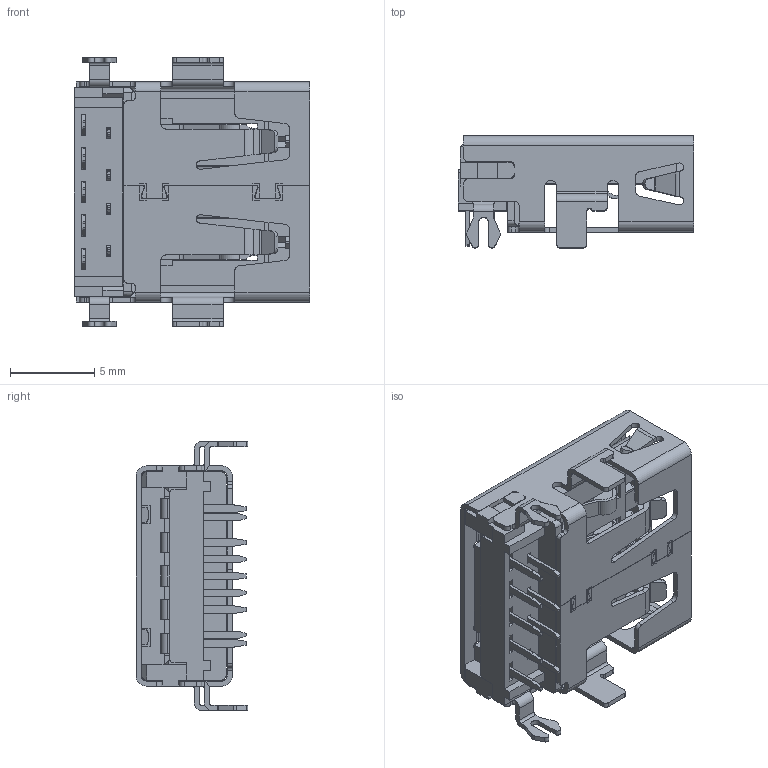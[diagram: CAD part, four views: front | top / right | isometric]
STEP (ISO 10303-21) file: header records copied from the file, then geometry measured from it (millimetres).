
FILE_DESCRIPTION((''),'2;1');
FILE_NAME('C090103_3D','2026-07-27T',('PMT2 SFT'),(''),'PRO/ENGINEER BY PARAMETRIC TECHNOLOGY CORPORATION, 2011490','PRO/ENGINEER BY PARAMETRIC TECHNOLOGY CORPORATION, 2011490','');
FILE_SCHEMA(('CONFIG_CONTROL_DESIGN'));
Length unit declared in the file: millimetre
Products named in the file (1): C090103_3D
Bounding box: 14 x 6.66 x 16 mm (x, y, z)
Volume: 390.1 mm3; surface area: 1801.3 mm2
Topology: 1 solids, 1 shells, 1425 faces, 4268 edges, 2806 vertices
Faces by surface type: plane 1016, cylinder 353, bspline 34, extrusion 16, cone 6
Entity records: 50284 total; most frequent: CARTESIAN_POINT 11440, ORIENTED_EDGE 8532, DIRECTION 7620, EDGE_CURVE 4266, VECTOR 3384, LINE 3368, VERTEX_POINT 2806, AXIS2_PLACEMENT_3D 2118
